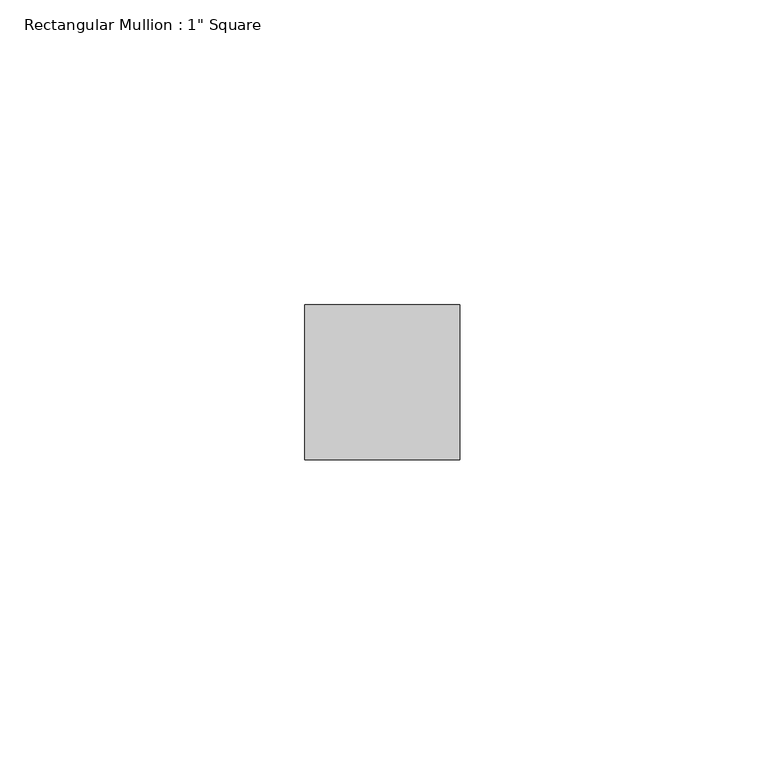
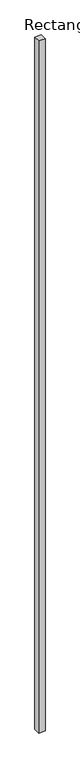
"""IFC4 building model written with IfcOpenShell, lengths in millimetres: member geometry."""

from ifc_helpers import new_model, si_unit, frame, origin, place, context, project, spatial, polyline, outline, extrude, source, transform, mapped, element, save


def member_930283e5(model_context):
    return source(origin(), model_context, "Body", "SweptSolid", [
        extrude(outline(polyline([(12.7, 12.7), (12.7, -12.7), (-12.7, -12.7), (-12.7, 12.7), (12.7, 12.7)])), frame((0.0, 0.0, -2897.1266516), z_axis=(0.0, 0.0, 1.0), x_axis=(1.0, 0.0, 0.0)), (0.0, 0.0, 1.0), 2897.1266516),
    ])


if __name__ == "__main__":
    model = new_model("IFC4")
    model_context = context("Model", 3, world=origin())
    ifc_project = project(units=[si_unit("LENGTHUNIT", "METRE", prefix="MILLI")], contexts=[model_context])
    site = spatial("IfcSite", under=ifc_project)
    building = spatial("IfcBuilding", under=site)
    placement = place(None, origin())
    member_shape = member_930283e5(model_context)
    element("IfcMember", 1, ObjectType="Rectangular Mullion : 1\" Square", at=placement, inside=building, context=model_context, shape_type="MappedRepresentation", body=[
        mapped(member_shape, transform((0.0, 0.0, 0.0), x_axis=(1.0, 0.0, 0.0), y_axis=(0.0, 1.0, 0.0), z_axis=(0.0, 0.0, 1.0))),
    ])
    save(model, "model.ifc")
